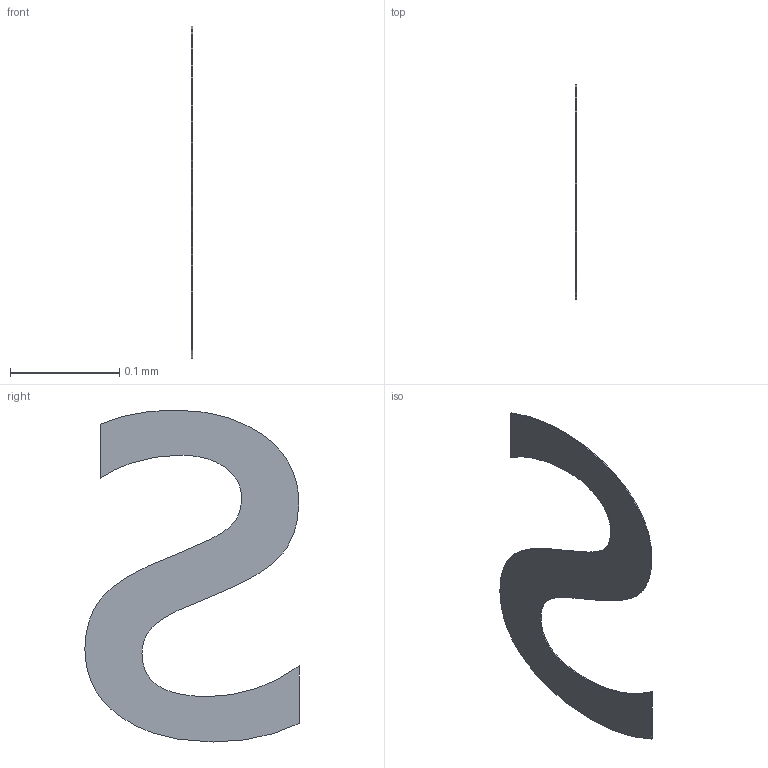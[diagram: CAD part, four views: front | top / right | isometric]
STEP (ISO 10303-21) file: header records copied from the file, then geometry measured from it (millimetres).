
FILE_DESCRIPTION(/* description */ ('STEP AP242 Edition 2','CAx-IF Rec.Pracs.---Representation and Presentation of Product Manufacturing Information (PMI)---4.0---2014-10-13','CAx-IF Rec.Pracs.---3D Tessellated Geometry---0.4---2014-09-14','2;1','CAx-IF Rec.Pracs.---User Defined Attributes---1.5---2016-08-15'),/* implementation_level */ '2;1');
FILE_NAME(/* name */ 'Assembly 1 - CONN-TH_HFBR-1521Z~CONN-TH_HFBR-1521Z~nxQB (12)',/* time_stamp */ '2026-04-02T09:55:12Z',/* author */ (''),/* organization */ (''),/* preprocessor_version */ 'ST-DEVELOPER v20',/* originating_system */ 'ONSHAPE BY PTC INC, 1.212',/* authorisation */ ' ');
FILE_SCHEMA (('AP242_MANAGED_MODEL_BASED_3D_ENGINEERING_MIM_LF { 1 0 10303 442 3 1 4 }'));
Length unit declared in the file: metre
Products named in the file (1): CONN-TH_HFBR-1521Z~CONN-TH_HFBR-1521Z~nxQB
Bounding box: 0 x 0.2 x 0.3 mm (x, y, z)
Volume: 0 mm3; surface area: 0.1 mm2
Topology: 1 solids, 1 shells, 23 faces, 63 edges, 42 vertices
Faces by surface type: bspline 19, plane 4
Entity records: 1015 total; most frequent: CARTESIAN_POINT 376, ORIENTED_EDGE 126, EDGE_CURVE 63, VERTEX_POINT 42, B_SPLINE_CURVE_WITH_KNOTS 38, DIRECTION 35, LINE 25, VECTOR 25
